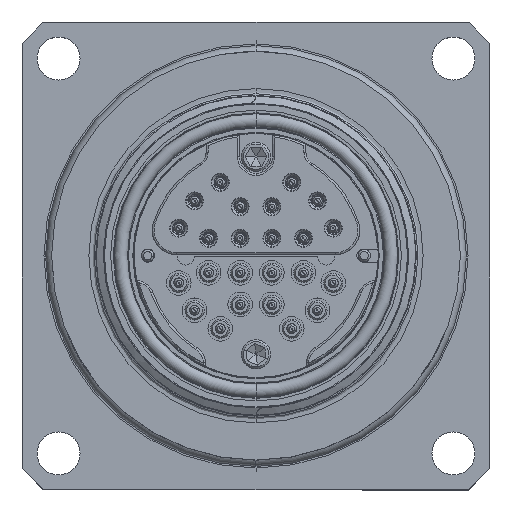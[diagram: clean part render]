
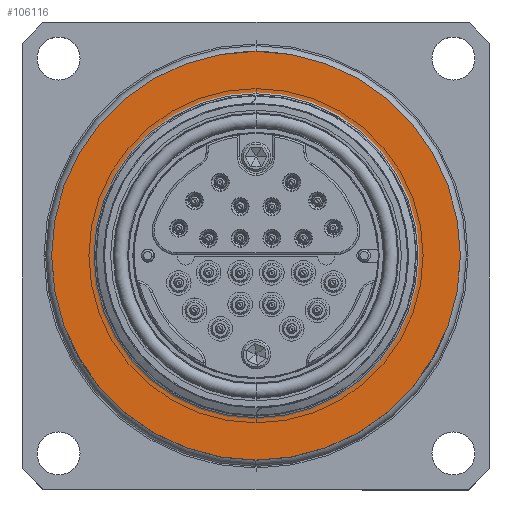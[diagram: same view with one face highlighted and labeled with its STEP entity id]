
A CAD part, top view. The second image highlights one B-rep face of the part: STEP entity #106116.
In plain terms, the highlighted planar face has unit normal (0, 0, 1).
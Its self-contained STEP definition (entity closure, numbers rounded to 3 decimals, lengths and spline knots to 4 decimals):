
#5144 = DIRECTION ( 'NONE',  ( 0., 0., 1. ) ) ;
#6040 = CARTESIAN_POINT ( 'NONE',  ( 0., 1.035, -0.506 ) ) ;
#6081 = CIRCLE ( 'NONE', #95147, 1.035 ) ;
#8560 = CIRCLE ( 'NONE', #20603, 0.82 ) ;
#19026 = CARTESIAN_POINT ( 'NONE',  ( 0., -0.82, -0.506 ) ) ;
#20603 = AXIS2_PLACEMENT_3D ( 'NONE', #82768, #45904, #23261 ) ;
#22942 = CARTESIAN_POINT ( 'NONE',  ( 0., 0.82, -0.506 ) ) ;
#23261 = DIRECTION ( 'NONE',  ( 0., 1., 0. ) ) ;
#25410 = DIRECTION ( 'NONE',  ( 0., 1., 0. ) ) ;
#26239 = DIRECTION ( 'NONE',  ( 0., 0., 1. ) ) ;
#29160 = CARTESIAN_POINT ( 'NONE',  ( -1.035, 0., -0.506 ) ) ;
#32544 = CIRCLE ( 'NONE', #128844, 1.035 ) ;
#35433 = CIRCLE ( 'NONE', #49920, 0.82 ) ;
#36773 = EDGE_LOOP ( 'NONE', ( #143559, #106925 ) ) ;
#39819 = DIRECTION ( 'NONE',  ( 0., 1., 0. ) ) ;
#45904 = DIRECTION ( 'NONE',  ( 0., 0., 1. ) ) ;
#49920 = AXIS2_PLACEMENT_3D ( 'NONE', #60061, #85638, #25410 ) ;
#50332 = CARTESIAN_POINT ( 'NONE',  ( 0., 0., -0.506 ) ) ;
#58175 = VERTEX_POINT ( 'NONE', #6040 ) ;
#60061 = CARTESIAN_POINT ( 'NONE',  ( 0., 0., -0.506 ) ) ;
#64570 = DIRECTION ( 'NONE',  ( 0., 0., -1. ) ) ;
#73307 = EDGE_CURVE ( 'NONE', #129791, #141569, #8560, .T. ) ;
#79605 = AXIS2_PLACEMENT_3D ( 'NONE', #29160, #64570, #133944 ) ;
#82033 = EDGE_LOOP ( 'NONE', ( #146918, #148009 ) ) ;
#82768 = CARTESIAN_POINT ( 'NONE',  ( 0., 0., -0.506 ) ) ;
#85638 = DIRECTION ( 'NONE',  ( 0., 0., 1. ) ) ;
#88496 = EDGE_CURVE ( 'NONE', #141569, #129791, #35433, .T. ) ;
#95147 = AXIS2_PLACEMENT_3D ( 'NONE', #119704, #5144, #39819 ) ;
#99980 = FACE_BOUND ( 'NONE', #36773, .T. ) ;
#102116 = VERTEX_POINT ( 'NONE', #114238 ) ;
#106116 = ADVANCED_FACE ( 'NONE', ( #99980, #123331 ), #134668, .F. ) ;
#106925 = ORIENTED_EDGE ( 'NONE', *, *, #88496, .F. ) ;
#114238 = CARTESIAN_POINT ( 'NONE',  ( 0., -1.035, -0.506 ) ) ;
#119447 = EDGE_CURVE ( 'NONE', #102116, #58175, #32544, .T. ) ;
#119704 = CARTESIAN_POINT ( 'NONE',  ( 0., 0., -0.506 ) ) ;
#120067 = EDGE_CURVE ( 'NONE', #58175, #102116, #6081, .T. ) ;
#123331 = FACE_OUTER_BOUND ( 'NONE', #82033, .T. ) ;
#128844 = AXIS2_PLACEMENT_3D ( 'NONE', #50332, #26239, #140818 ) ;
#129791 = VERTEX_POINT ( 'NONE', #22942 ) ;
#133944 = DIRECTION ( 'NONE',  ( 0., -1., 0. ) ) ;
#134668 = PLANE ( 'NONE',  #79605 ) ;
#140818 = DIRECTION ( 'NONE',  ( 0., 1., 0. ) ) ;
#141569 = VERTEX_POINT ( 'NONE', #19026 ) ;
#143559 = ORIENTED_EDGE ( 'NONE', *, *, #73307, .F. ) ;
#146918 = ORIENTED_EDGE ( 'NONE', *, *, #120067, .T. ) ;
#148009 = ORIENTED_EDGE ( 'NONE', *, *, #119447, .T. ) ;
